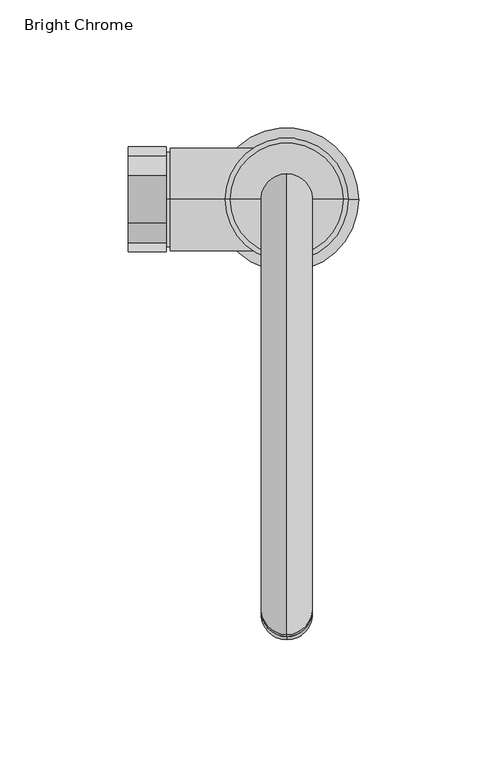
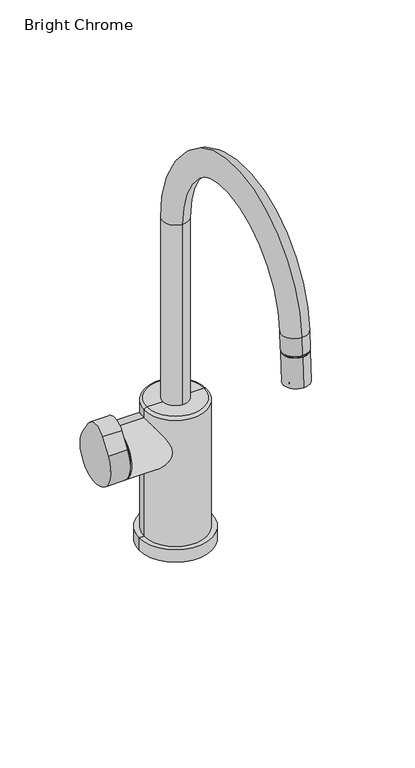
"""IFC4 building model written with IfcOpenShell, lengths in millimetres: flow terminal geometry, z_PlumFixt_Zenith_Arc : Bright Chrome."""

from ifc_helpers import new_model, si_unit, point, frame, frame_2d, origin, place, context, project, spatial, polyline, circle_curve, ellipse_curve, trimmed, segment, composite_curve, outline, extrude, source, transform, mapped, element, save
from ifc_brep_helpers import plane_surface, cylinder_surface, revolved_surface, advanced_brep


def bright_chrome_dafbc2dd(model_context):
    return source(origin(), model_context, "Body", "SolidModel", [
        extrude(outline(composite_curve([segment(trimmed(circle_curve(frame_2d((10.65, 87.5)), 6.35), [point((17.0, 87.5))], [point((4.3, 87.5))], False, "CARTESIAN"), True, "CONTINUOUS"), segment(trimmed(circle_curve(frame_2d((10.65, 87.5)), 6.35), [point((4.3, 87.5))], [point((17.0, 87.5))], False, "CARTESIAN"), True, "CONTINUOUS")], self_intersect=False)), frame((0.0, 0.0, -1.0), z_axis=(0.0, 0.0, 1.0), x_axis=(1.0, 0.0, 0.0)), (0.0, 0.0, 1.0), 1.0),
        extrude(outline(composite_curve([segment(trimmed(circle_curve(frame_2d((25.35, 87.5)), 6.35), [point((31.7, 87.5))], [point((19.0, 87.5))], False, "CARTESIAN"), True, "CONTINUOUS"), segment(trimmed(circle_curve(frame_2d((25.35, 87.5)), 6.35), [point((19.0, 87.5))], [point((31.7, 87.5))], False, "CARTESIAN"), True, "CONTINUOUS")], self_intersect=False)), frame((0.0, 0.0, -1.0), z_axis=(0.0, 0.0, 1.0), x_axis=(1.0, 0.0, 0.0)), (0.0, 0.0, 1.0), 1.0),
        advanced_brep(
        [(18.0, 87.5, 0.0), (46.0, 87.5, 0.0), (-10.0, 87.5, 0.0), (-4.0, 87.5, 115.0), (40.0, 87.5, 115.0), (18.0, 87.5, 115.0), (-6.0, 87.5, 10.0), (42.0, 87.5, 10.0), (42.0, 87.5, 113.0), (-6.0, 87.5, 113.0), (-10.0, 87.5, 10.0), (46.0, 87.5, 10.0)],
        [
            (0, 1),
            (1, 2, circle_curve(frame((18.0, 87.5, 0.0), z_axis=(0.0, 0.0, -1.0), x_axis=(1.0, 0.0, 0.0)), 28.0)),
            (2, 0),
            (2, 1, circle_curve(frame((18.0, 87.5, 0.0), z_axis=(0.0, 0.0, -1.0), x_axis=(1.0, 0.0, 0.0)), 28.0)),
            (3, 4, circle_curve(frame((18.0, 87.5, 115.0), z_axis=(0.0, 0.0, 1.0), x_axis=(1.0, 0.0, 0.0)), 22.0)),
            (4, 5),
            (5, 3),
            (4, 3, circle_curve(frame((18.0, 87.5, 115.0), z_axis=(0.0, 0.0, 1.0), x_axis=(1.0, 0.0, 0.0)), 22.0)),
            (6, 7, circle_curve(frame((18.0, 87.5, 10.0), z_axis=(0.0, 0.0, 1.0), x_axis=(1.0, 0.0, 0.0)), 24.0)),
            (7, 8),
            (8, 9, circle_curve(frame((18.0, 87.5, 113.0), z_axis=(0.0, 0.0, -1.0), x_axis=(1.0, 0.0, 0.0)), 24.0)),
            (9, 6),
            (7, 6, circle_curve(frame((18.0, 87.5, 10.0), z_axis=(0.0, 0.0, 1.0), x_axis=(1.0, 0.0, 0.0)), 24.0)),
            (9, 8, circle_curve(frame((18.0, 87.5, 113.0), z_axis=(0.0, 0.0, -1.0), x_axis=(1.0, 0.0, 0.0)), 24.0)),
            (10, 11, circle_curve(frame((18.0, 87.5, 10.0), z_axis=(0.0, 0.0, 1.0), x_axis=(1.0, 0.0, 0.0)), 28.0)),
            (11, 7),
            (6, 10),
            (11, 10, circle_curve(frame((18.0, 87.5, 10.0), z_axis=(0.0, 0.0, 1.0), x_axis=(1.0, 0.0, 0.0)), 28.0)),
            (1, 11),
            (10, 2),
            (8, 4, circle_curve(frame((40.0, 87.5, 113.0), z_axis=(0.0, -1.0, 0.0), x_axis=(-1.0, 0.0, 0.0)), 2.0)),
            (3, 9, circle_curve(frame((-4.0, 87.5, 113.0), z_axis=(0.0, -1.0, 0.0), x_axis=(1.0, 0.0, 0.0)), 2.0)),
        ],
        [
            plane_surface(frame((18.0, 87.5, 0.0), z_axis=(0.0, 0.0, -1.0), x_axis=(1.0, 0.0, 0.0))),
            plane_surface(frame((18.0, 87.5, 115.0), z_axis=(0.0, 0.0, 1.0), x_axis=(1.0, 0.0, 0.0))),
            cylinder_surface(frame((18.0, 87.5, 115.0), z_axis=(0.0, 0.0, -1.0), x_axis=(1.0, 0.0, 0.0)), 24.0),
            plane_surface(frame((18.0, 87.5, 10.0), z_axis=(0.0, 0.0, 1.0), x_axis=(1.0, 0.0, 0.0))),
            cylinder_surface(frame((18.0, 87.5, 115.0), z_axis=(0.0, 0.0, -1.0), x_axis=(1.0, 0.0, 0.0)), 28.0),
            revolved_surface(trimmed(ellipse_curve(frame((40.0, 87.5, 113.0), z_axis=(0.0, 1.0, 0.0), x_axis=(-1.0, 0.0, 0.0)), 2.0, 2.0), [point((40.0, 87.5, 115.0))], [point((42.0, 87.5, 113.0))], True, "CARTESIAN"), (18.0, 87.5, 115.0), (0.0, 0.0, -1.0)),
        ],
        [
            (0, [[1, 2, 3]]),
            (0, [[-3, 4, -1]]),
            (1, [[5, 6, 7]]),
            (1, [[8, -7, -6]]),
            (2, [[9, 10, 11, 12]]),
            (2, [[13, -12, 14, -10]]),
            (3, [[15, 16, -9, 17]]),
            (3, [[18, -17, -13, -16]]),
            (4, [[-2, 19, -15, 20]]),
            (4, [[-4, -20, -18, -19]]),
            (5, [[-11, 21, -5, 22]]),
            (5, [[-14, -22, -8, -21]]),
        ],
    ),
        advanced_brep(
        [(-29.0, 87.5, 68.3400719), (-29.0, 87.5, 105.4300145), (-29.0, 87.5, 86.8850432), (-27.497976, 87.5, 68.3400719), (-27.497976, 87.5, 105.4300145), (-27.497976, 87.5, 66.8850432), (-27.497976, 87.5, 106.8850432), (18.0, 87.5, 66.8850432), (18.0, 87.5, 106.8850432), (18.0, 87.5, 86.8850432)],
        [
            (0, 1, circle_curve(frame((-29.0, 87.5, 86.8850432), z_axis=(-1.0, 0.0, 0.0), x_axis=(0.0, 0.0, 1.0)), 18.5449713)),
            (1, 2),
            (2, 0),
            (1, 0, circle_curve(frame((-29.0, 87.5, 86.8850432), z_axis=(-1.0, 0.0, 0.0), x_axis=(0.0, 0.0, 1.0)), 18.5449713)),
            (3, 4, circle_curve(frame((-27.497976, 87.5, 86.8850432), z_axis=(-1.0, 0.0, 0.0), x_axis=(0.0, 0.0, 1.0)), 18.5449713)),
            (4, 1),
            (0, 3),
            (4, 3, circle_curve(frame((-27.497976, 87.5, 86.8850432), z_axis=(-1.0, 0.0, 0.0), x_axis=(0.0, 0.0, 1.0)), 18.5449713)),
            (5, 6, circle_curve(frame((-27.497976, 87.5, 86.8850432), z_axis=(-1.0, 0.0, 0.0), x_axis=(0.0, 0.0, 1.0)), 20.0)),
            (6, 4),
            (3, 5),
            (6, 5, circle_curve(frame((-27.497976, 87.5, 86.8850432), z_axis=(-1.0, 0.0, 0.0), x_axis=(0.0, 0.0, 1.0)), 20.0)),
            (7, 8, circle_curve(frame((18.0, 87.5, 86.8850432), z_axis=(-1.0, 0.0, 0.0), x_axis=(0.0, 0.0, 1.0)), 20.0)),
            (8, 6),
            (5, 7),
            (8, 7, circle_curve(frame((18.0, 87.5, 86.8850432), z_axis=(-1.0, 0.0, 0.0), x_axis=(0.0, 0.0, 1.0)), 20.0)),
            (9, 8),
            (7, 9),
        ],
        [
            plane_surface(frame((-29.0, 87.5, 86.8850432), z_axis=(-1.0, 0.0, 0.0), x_axis=(0.0, 0.0, 1.0))),
            cylinder_surface(frame((18.0, 87.5, 86.8850432), z_axis=(1.0, 0.0, 0.0), x_axis=(0.0, 0.0, 1.0)), 18.5449713),
            plane_surface(frame((-27.497976, 87.5, 86.8850432), z_axis=(-1.0, 0.0, 0.0), x_axis=(0.0, 0.0, 1.0))),
            cylinder_surface(frame((18.0, 87.5, 86.8850432), z_axis=(1.0, 0.0, 0.0), x_axis=(0.0, 0.0, 1.0)), 20.0),
            plane_surface(frame((18.0, 87.5, 86.8850432), z_axis=(1.0, 0.0, 0.0), x_axis=(0.0, 0.0, 1.0))),
        ],
        [
            (0, [[1, 2, 3]]),
            (0, [[4, -3, -2]]),
            (1, [[5, 6, -1, 7]]),
            (1, [[8, -7, -4, -6]]),
            (2, [[9, 10, -5, 11]]),
            (2, [[12, -11, -8, -10]]),
            (3, [[13, 14, -9, 15]]),
            (3, [[16, -15, -12, -14]]),
            (4, [[17, -13, 18]]),
            (4, [[-18, -16, -17]]),
        ],
    ),
        extrude(outline(composite_curve([segment(polyline([(70.594225, 98.9800754), (78.2342203, 110.1193323)]), True, "CONTINUOUS"), segment(trimmed(circle_curve(frame_2d((87.5, 103.7642842)), 11.2357158), [point((78.2342203, 110.1193323))], [point((96.7657797, 110.1193323))], False, "CARTESIAN"), True, "CONTINUOUS"), segment(polyline([(96.7657797, 110.1193323), (104.405775, 98.9800754)]), True, "CONTINUOUS"), segment(trimmed(circle_curve(frame_2d((87.5, 87.3850432)), 20.5), [point((104.405775, 98.9800754))], [point((70.594225, 98.9800754))], False, "CARTESIAN"), True, "CONTINUOUS")], self_intersect=False)), frame((-44.0, 0.0, 0.0), z_axis=(1.0, 0.0, 0.0), x_axis=(0.0, 1.0, 0.0)), (0.0, 0.0, 1.0), 15.0),
        advanced_brep(
        [(18.0, -79.5918454, 225.4357787), (18.0, -69.6114069, 224.9268554), (18.0, -74.6016262, 225.1813171), (18.0, -79.499465, 227.2474409), (18.0, -69.5190265, 226.7385176), (18.0, -84.4896842, 227.5019026), (18.0, -64.5288073, 226.484056), (18.0, -83.2620828, 251.576256), (18.0, -63.3012059, 250.5584093), (18.0, -82.1869915, 253.0233837), (18.0, -64.2235195, 252.1073889), (18.0, -64.2999083, 250.6093353), (18.0, -82.2633804, 251.5253301), (18.0, -73.2052555, 252.5653863)],
        [
            (0, 1, circle_curve(frame((18.0, -74.6016262, 225.1813171), z_axis=(0.0, -0.05092591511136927, -0.9987024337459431), x_axis=(0.0, 0.9987024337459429, -0.050925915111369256)), 4.9967028)),
            (1, 2),
            (2, 0),
            (1, 0, circle_curve(frame((18.0, -74.6016262, 225.1813171), z_axis=(0.0, -0.05092591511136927, -0.9987024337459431), x_axis=(0.0, 0.9987024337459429, -0.050925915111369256)), 4.9967028)),
            (3, 4, circle_curve(frame((18.0, -74.5092457, 226.9929793), z_axis=(0.0, -0.05092591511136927, -0.9987024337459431), x_axis=(0.0, 0.9987024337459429, -0.050925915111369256)), 4.9967028)),
            (4, 1),
            (0, 3),
            (4, 3, circle_curve(frame((18.0, -74.5092457, 226.9929793), z_axis=(0.0, -0.05092591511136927, -0.9987024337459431), x_axis=(0.0, 0.9987024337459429, -0.050925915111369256)), 4.9967028)),
            (5, 6, circle_curve(frame((18.0, -74.5092457, 226.9929793), z_axis=(0.0, -0.05092591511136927, -0.9987024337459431), x_axis=(0.0, 0.9987024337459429, -0.050925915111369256)), 9.9934056)),
            (6, 4),
            (3, 5),
            (6, 5, circle_curve(frame((18.0, -74.5092457, 226.9929793), z_axis=(0.0, -0.05092591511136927, -0.9987024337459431), x_axis=(0.0, 0.9987024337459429, -0.050925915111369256)), 9.9934056)),
            (7, 8, circle_curve(frame((18.0, -73.2816444, 251.0673327), z_axis=(0.0, -0.05092591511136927, -0.9987024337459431), x_axis=(0.0, 0.9987024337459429, -0.050925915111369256)), 9.9934056)),
            (8, 6),
            (5, 7),
            (8, 7, circle_curve(frame((18.0, -73.2816444, 251.0673327), z_axis=(0.0, -0.05092591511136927, -0.9987024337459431), x_axis=(0.0, 0.9987024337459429, -0.050925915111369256)), 9.9934056)),
            (9, 10, circle_curve(frame((18.0, -73.2052555, 252.5653863), z_axis=(0.0, -0.05092591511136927, -0.9987024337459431), x_axis=(0.0, 0.9987024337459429, -0.050925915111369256)), 8.9934056)),
            (10, 11),
            (11, 12, circle_curve(frame((18.0, -73.2816444, 251.0673327), z_axis=(0.0, 0.05092591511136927, 0.9987024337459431), x_axis=(0.0, 0.9987024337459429, -0.050925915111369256)), 8.9934056)),
            (12, 9),
            (10, 9, circle_curve(frame((18.0, -73.2052555, 252.5653863), z_axis=(0.0, -0.05092591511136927, -0.9987024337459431), x_axis=(0.0, 0.9987024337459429, -0.050925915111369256)), 8.9934056)),
            (12, 11, circle_curve(frame((18.0, -73.2816444, 251.0673327), z_axis=(0.0, 0.05092591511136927, 0.9987024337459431), x_axis=(0.0, 0.9987024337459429, -0.050925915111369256)), 8.9934056)),
            (13, 10),
            (9, 13),
            (11, 8),
            (7, 12),
        ],
        [
            plane_surface(frame((18.0, -74.6016262, 225.1813171), z_axis=(0.0, -0.05092591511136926, -0.998702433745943), x_axis=(0.0, 0.998702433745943, -0.05092591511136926))),
            cylinder_surface(frame((18.0, -72.1955758, 272.366101), z_axis=(0.0, 0.050925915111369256, 0.9987024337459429), x_axis=(0.0, 0.9987024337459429, -0.050925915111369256)), 4.9967028),
            plane_surface(frame((18.0, -74.5092457, 226.9929793), z_axis=(0.0, -0.05092591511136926, -0.998702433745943), x_axis=(0.0, 0.998702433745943, -0.05092591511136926))),
            cylinder_surface(frame((18.0, -72.1955758, 272.366101), z_axis=(0.0, 0.050925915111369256, 0.9987024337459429), x_axis=(0.0, 0.9987024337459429, -0.050925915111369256)), 9.9934056),
            cylinder_surface(frame((18.0, -72.1955758, 272.366101), z_axis=(0.0, 0.050925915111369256, 0.9987024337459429), x_axis=(0.0, 0.9987024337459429, -0.050925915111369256)), 8.9934056),
            plane_surface(frame((18.0, -73.2052555, 252.5653863), z_axis=(0.0, 0.05092591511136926, 0.998702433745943), x_axis=(0.0, 0.998702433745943, -0.05092591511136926))),
            plane_surface(frame((18.0, -73.2816444, 251.0673327), z_axis=(0.0, 0.05092591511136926, 0.998702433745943), x_axis=(0.0, 0.998702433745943, -0.05092591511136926))),
        ],
        [
            (0, [[1, 2, 3]]),
            (0, [[4, -3, -2]]),
            (1, [[5, 6, -1, 7]]),
            (1, [[8, -7, -4, -6]]),
            (2, [[9, 10, -5, 11]]),
            (2, [[12, -11, -8, -10]]),
            (3, [[13, 14, -9, 15]]),
            (3, [[16, -15, -12, -14]]),
            (4, [[17, 18, 19, 20]]),
            (4, [[21, -20, 22, -18]]),
            (5, [[23, -17, 24]]),
            (5, [[-24, -21, -23]]),
            (6, [[-19, 25, -13, 26]]),
            (6, [[-22, -26, -16, -25]]),
        ],
    ),
        advanced_brep(
        [(18.0, 97.5, 115.0), (18.0, 77.5, 115.0), (18.0, 97.5, 262.7559735), (18.0, 77.5, 262.7559735), (18.0, -83.1922798, 253.0746455), (18.0, -63.2182312, 252.0561272), (18.0, -62.4907405, 266.3228659), (18.0, -82.4647891, 267.3413842)],
        [
            (0, 1, circle_curve(frame((18.0, 87.5, 115.0), z_axis=(0.0, 0.0, -1.0), x_axis=(0.0, -1.0, 0.0)), 10.0)),
            (1, 0, circle_curve(frame((18.0, 87.5, 115.0), z_axis=(0.0, 0.0, -1.0), x_axis=(0.0, -1.0, 0.0)), 10.0)),
            (0, 2),
            (2, 3, circle_curve(frame((18.0, 87.5, 262.7559735), z_axis=(0.0, 0.0, -1.0), x_axis=(0.0, -1.0, 0.0)), 10.0)),
            (3, 1),
            (3, 2, circle_curve(frame((18.0, 87.5, 262.7559735), z_axis=(0.0, 0.0, -1.0), x_axis=(0.0, -1.0, 0.0)), 10.0)),
            (4, 5, circle_curve(frame((18.0, -73.2052555, 252.5653863), z_axis=(0.0, -0.050925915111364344, -0.9987024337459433), x_axis=(0.0, 0.9987024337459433, -0.050925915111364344)), 10.0)),
            (5, 4, circle_curve(frame((18.0, -73.2052555, 252.5653863), z_axis=(0.0, -0.050925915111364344, -0.9987024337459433), x_axis=(0.0, 0.9987024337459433, -0.050925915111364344)), 10.0)),
            (6, 3, circle_curve(frame((18.0, 7.4591885, 262.7559735), z_axis=(-1.0, 0.0, 0.0), x_axis=(0.0, 1.0, 0.0)), 70.0408115)),
            (2, 7, circle_curve(frame((18.0, 7.4591885, 262.7559735), z_axis=(1.0, 0.0, 0.0), x_axis=(0.0, 1.0, 0.0)), 90.0408115)),
            (7, 6, circle_curve(frame((18.0, -72.4777648, 266.8321251), z_axis=(0.0, 0.050925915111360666, 0.9987024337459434), x_axis=(0.0, 0.9987024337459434, -0.050925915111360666)), 10.0)),
            (6, 7, circle_curve(frame((18.0, -72.4777648, 266.8321251), z_axis=(0.0, 0.05092591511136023, 0.9987024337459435), x_axis=(0.0, 0.9987024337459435, -0.05092591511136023)), 10.0)),
            (7, 4),
            (5, 6),
        ],
        [
            plane_surface(frame((18.0, 87.5, 115.0), z_axis=(0.0, 0.0, -1.0), x_axis=(1.0, 0.0, 0.0))),
            cylinder_surface(frame((18.0, 87.5, 115.0), z_axis=(0.0, 0.0, -1.0), x_axis=(0.0, -1.0, 0.0)), 10.0),
            plane_surface(frame((18.0, -73.2052555, 252.5653863), z_axis=(0.0, -0.050925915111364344, -0.9987024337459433), x_axis=(1.0, 0.0, 0.0))),
            revolved_surface(trimmed(ellipse_curve(frame((18.0, 87.5, 262.7559735), z_axis=(0.0, 0.0, -1.0), x_axis=(0.0, -1.0, 0.0)), 10.0, 10.0), [point((18.0, 97.5, 262.7559735))], [point((18.0, 77.5, 262.7559735))], True, "CARTESIAN"), (18.0, 7.4591885, 262.7559735), (1.0, 0.0, 0.0)),
            revolved_surface(trimmed(ellipse_curve(frame((18.0, 87.5, 262.7559735), z_axis=(0.0, 0.0, -1.0), x_axis=(0.0, -1.0, 0.0)), 10.0, 10.0), [point((18.0, 77.5, 262.7559735))], [point((18.0, 97.5, 262.7559735))], True, "CARTESIAN"), (18.0, 7.4591885, 262.7559735), (1.0, 0.0, 0.0)),
            cylinder_surface(frame((18.0, -72.4777648, 266.8321251), z_axis=(0.0, 0.050925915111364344, 0.9987024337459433), x_axis=(0.0, 0.9987024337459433, -0.050925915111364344)), 10.0),
        ],
        [
            (0, [[1, 2]]),
            (1, [[-1, 3, 4, 5]]),
            (1, [[-2, -5, 6, -3]]),
            (2, [[7, 8]]),
            (3, [[9, -4, 10, 11]]),
            (4, [[-10, -6, -9, 12]]),
            (5, [[-11, 13, -8, 14]]),
            (5, [[-12, -14, -7, -13]]),
        ],
    ),
    ])


if __name__ == "__main__":
    model = new_model("IFC4")
    model_context = context("Model", 3, world=origin())
    ifc_project = project(units=[si_unit("LENGTHUNIT", "METRE", prefix="MILLI")], contexts=[model_context])
    site = spatial("IfcSite", under=ifc_project)
    building = spatial("IfcBuilding", under=site)
    placement = place(None, origin())
    bright_chrome_shape = bright_chrome_dafbc2dd(model_context)
    element("IfcFlowTerminal", 1, ObjectType="z_PlumFixt_Zenith_Arc : Bright Chrome", at=placement, inside=building, context=model_context, shape_type="MappedRepresentation", body=[
        mapped(bright_chrome_shape, transform((0.0, 0.0, 0.0), x_axis=(1.0, 0.0, 0.0), y_axis=(0.0, 1.0, 0.0), z_axis=(0.0, 0.0, 1.0))),
    ])
    save(model, "model.ifc")
